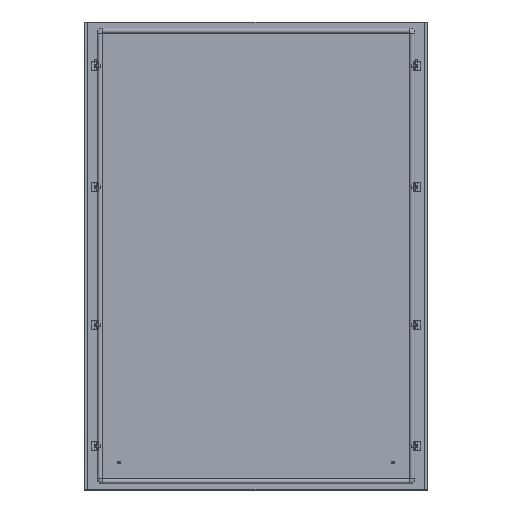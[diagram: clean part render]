
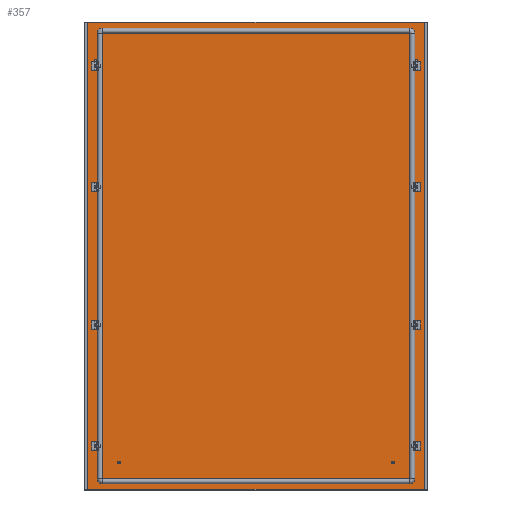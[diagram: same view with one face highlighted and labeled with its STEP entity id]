
A CAD part, top view. The second image highlights one B-rep face of the part: STEP entity #357.
In plain terms, the highlighted planar face has unit normal (0, 0, 1).
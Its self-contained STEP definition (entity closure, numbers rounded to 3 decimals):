
#357 = ADVANCED_FACE('',(#358,#456,#467,#478,#498,#518,#529,#540,#560),
  #580,.F.);
#358 = FACE_BOUND('',#359,.T.);
#359 = EDGE_LOOP('',(#360,#370,#378,#386,#394,#402,#410,#418,#426,#434,
    #442,#450));
#360 = ORIENTED_EDGE('',*,*,#361,.F.);
#361 = EDGE_CURVE('',#362,#364,#366,.T.);
#362 = VERTEX_POINT('',#363);
#363 = CARTESIAN_POINT('',(-495.5,677.5,0.));
#364 = VERTEX_POINT('',#365);
#365 = CARTESIAN_POINT('',(-495.3,677.5,0.));
#366 = LINE('',#367,#368);
#367 = CARTESIAN_POINT('',(0.,677.5,0.)
  );
#368 = VECTOR('',#369,1.);
#369 = DIRECTION('',(1.,0.,0.));
#370 = ORIENTED_EDGE('',*,*,#371,.T.);
#371 = EDGE_CURVE('',#362,#372,#374,.T.);
#372 = VERTEX_POINT('',#373);
#373 = CARTESIAN_POINT('',(-495.5,-677.5,0.));
#374 = LINE('',#375,#376);
#375 = CARTESIAN_POINT('',(-495.5,0.,
    0.));
#376 = VECTOR('',#377,1.);
#377 = DIRECTION('',(0.,-1.,0.));
#378 = ORIENTED_EDGE('',*,*,#379,.T.);
#379 = EDGE_CURVE('',#372,#380,#382,.T.);
#380 = VERTEX_POINT('',#381);
#381 = CARTESIAN_POINT('',(-495.3,-677.5,0.));
#382 = LINE('',#383,#384);
#383 = CARTESIAN_POINT('',(0.,-677.5,0.)
  );
#384 = VECTOR('',#385,1.);
#385 = DIRECTION('',(1.,-0.,-0.));
#386 = ORIENTED_EDGE('',*,*,#387,.F.);
#387 = EDGE_CURVE('',#388,#380,#390,.T.);
#388 = VERTEX_POINT('',#389);
#389 = CARTESIAN_POINT('',(-495.3,-676.,0.));
#390 = LINE('',#391,#392);
#391 = CARTESIAN_POINT('',(-495.3,0.,
    0.));
#392 = VECTOR('',#393,1.);
#393 = DIRECTION('',(0.,-1.,0.));
#394 = ORIENTED_EDGE('',*,*,#395,.T.);
#395 = EDGE_CURVE('',#388,#396,#398,.T.);
#396 = VERTEX_POINT('',#397);
#397 = CARTESIAN_POINT('',(495.3,-676.,0.));
#398 = LINE('',#399,#400);
#399 = CARTESIAN_POINT('',(0.,-676.,0.)
  );
#400 = VECTOR('',#401,1.);
#401 = DIRECTION('',(1.,-0.,-0.));
#402 = ORIENTED_EDGE('',*,*,#403,.T.);
#403 = EDGE_CURVE('',#396,#404,#406,.T.);
#404 = VERTEX_POINT('',#405);
#405 = CARTESIAN_POINT('',(495.3,-677.5,0.));
#406 = LINE('',#407,#408);
#407 = CARTESIAN_POINT('',(495.3,-676.,0.));
#408 = VECTOR('',#409,1.);
#409 = DIRECTION('',(0.,-1.,0.));
#410 = ORIENTED_EDGE('',*,*,#411,.F.);
#411 = EDGE_CURVE('',#412,#404,#414,.T.);
#412 = VERTEX_POINT('',#413);
#413 = CARTESIAN_POINT('',(495.5,-677.5,0.));
#414 = LINE('',#415,#416);
#415 = CARTESIAN_POINT('',(0.,-677.5,0.
    ));
#416 = VECTOR('',#417,1.);
#417 = DIRECTION('',(-1.,0.,0.));
#418 = ORIENTED_EDGE('',*,*,#419,.T.);
#419 = EDGE_CURVE('',#412,#420,#422,.T.);
#420 = VERTEX_POINT('',#421);
#421 = CARTESIAN_POINT('',(495.5,677.5,0.));
#422 = LINE('',#423,#424);
#423 = CARTESIAN_POINT('',(495.5,0.,
    0.));
#424 = VECTOR('',#425,1.);
#425 = DIRECTION('',(0.,1.,0.));
#426 = ORIENTED_EDGE('',*,*,#427,.T.);
#427 = EDGE_CURVE('',#420,#428,#430,.T.);
#428 = VERTEX_POINT('',#429);
#429 = CARTESIAN_POINT('',(495.3,677.5,0.));
#430 = LINE('',#431,#432);
#431 = CARTESIAN_POINT('',(0.,677.5,0.)
  );
#432 = VECTOR('',#433,1.);
#433 = DIRECTION('',(-1.,0.,0.));
#434 = ORIENTED_EDGE('',*,*,#435,.F.);
#435 = EDGE_CURVE('',#436,#428,#438,.T.);
#436 = VERTEX_POINT('',#437);
#437 = CARTESIAN_POINT('',(495.3,676.,0.));
#438 = LINE('',#439,#440);
#439 = CARTESIAN_POINT('',(495.3,0.,
    0.));
#440 = VECTOR('',#441,1.);
#441 = DIRECTION('',(0.,1.,0.));
#442 = ORIENTED_EDGE('',*,*,#443,.T.);
#443 = EDGE_CURVE('',#436,#444,#446,.T.);
#444 = VERTEX_POINT('',#445);
#445 = CARTESIAN_POINT('',(-495.3,676.,0.));
#446 = LINE('',#447,#448);
#447 = CARTESIAN_POINT('',(0.,676.,0.)
  );
#448 = VECTOR('',#449,1.);
#449 = DIRECTION('',(-1.,0.,0.));
#450 = ORIENTED_EDGE('',*,*,#451,.T.);
#451 = EDGE_CURVE('',#444,#364,#452,.T.);
#452 = LINE('',#453,#454);
#453 = CARTESIAN_POINT('',(-495.3,676.,0.));
#454 = VECTOR('',#455,1.);
#455 = DIRECTION('',(0.,1.,0.));
#456 = FACE_BOUND('',#457,.T.);
#457 = EDGE_LOOP('',(#458));
#458 = ORIENTED_EDGE('',*,*,#459,.T.);
#459 = EDGE_CURVE('',#460,#460,#462,.T.);
#460 = VERTEX_POINT('',#461);
#461 = CARTESIAN_POINT('',(-464.5,-195.25,
    0.));
#462 = CIRCLE('',#463,4.75);
#463 = AXIS2_PLACEMENT_3D('',#464,#465,#466);
#464 = CARTESIAN_POINT('',(-464.5,-200.,0.));
#465 = DIRECTION('',(0.,0.,-1.));
#466 = DIRECTION('',(0.,1.,0.));
#467 = FACE_BOUND('',#468,.T.);
#468 = EDGE_LOOP('',(#469));
#469 = ORIENTED_EDGE('',*,*,#470,.T.);
#470 = EDGE_CURVE('',#471,#471,#473,.T.);
#471 = VERTEX_POINT('',#472);
#472 = CARTESIAN_POINT('',(464.5,-204.75,
    0.));
#473 = CIRCLE('',#474,4.75);
#474 = AXIS2_PLACEMENT_3D('',#475,#476,#477);
#475 = CARTESIAN_POINT('',(464.5,-200.,0.));
#476 = DIRECTION('',(-0.,0.,-1.));
#477 = DIRECTION('',(0.,-1.,0.));
#478 = FACE_BOUND('',#479,.T.);
#479 = EDGE_LOOP('',(#480,#491));
#480 = ORIENTED_EDGE('',*,*,#481,.F.);
#481 = EDGE_CURVE('',#482,#484,#486,.T.);
#482 = VERTEX_POINT('',#483);
#483 = CARTESIAN_POINT('',(-464.5,554.75,
    0.));
#484 = VERTEX_POINT('',#485);
#485 = CARTESIAN_POINT('',(-464.5,545.25,
    0.));
#486 = CIRCLE('',#487,4.75);
#487 = AXIS2_PLACEMENT_3D('',#488,#489,#490);
#488 = CARTESIAN_POINT('',(-464.5,550.,0.));
#489 = DIRECTION('',(0.,0.,1.));
#490 = DIRECTION('',(0.,1.,0.));
#491 = ORIENTED_EDGE('',*,*,#492,.F.);
#492 = EDGE_CURVE('',#484,#482,#493,.T.);
#493 = CIRCLE('',#494,4.75);
#494 = AXIS2_PLACEMENT_3D('',#495,#496,#497);
#495 = CARTESIAN_POINT('',(-464.5,550.,0.));
#496 = DIRECTION('',(0.,0.,1.));
#497 = DIRECTION('',(0.,1.,0.));
#498 = FACE_BOUND('',#499,.T.);
#499 = EDGE_LOOP('',(#500,#511));
#500 = ORIENTED_EDGE('',*,*,#501,.F.);
#501 = EDGE_CURVE('',#502,#504,#506,.T.);
#502 = VERTEX_POINT('',#503);
#503 = CARTESIAN_POINT('',(464.5,545.25,
    0.));
#504 = VERTEX_POINT('',#505);
#505 = CARTESIAN_POINT('',(464.5,554.75,
    0.));
#506 = CIRCLE('',#507,4.75);
#507 = AXIS2_PLACEMENT_3D('',#508,#509,#510);
#508 = CARTESIAN_POINT('',(464.5,550.,0.));
#509 = DIRECTION('',(0.,0.,1.));
#510 = DIRECTION('',(0.,-1.,0.));
#511 = ORIENTED_EDGE('',*,*,#512,.F.);
#512 = EDGE_CURVE('',#504,#502,#513,.T.);
#513 = CIRCLE('',#514,4.75);
#514 = AXIS2_PLACEMENT_3D('',#515,#516,#517);
#515 = CARTESIAN_POINT('',(464.5,550.,0.));
#516 = DIRECTION('',(0.,0.,1.));
#517 = DIRECTION('',(0.,-1.,0.));
#518 = FACE_BOUND('',#519,.T.);
#519 = EDGE_LOOP('',(#520));
#520 = ORIENTED_EDGE('',*,*,#521,.T.);
#521 = EDGE_CURVE('',#522,#522,#524,.T.);
#522 = VERTEX_POINT('',#523);
#523 = CARTESIAN_POINT('',(-464.5,-545.25,
    0.));
#524 = CIRCLE('',#525,4.75);
#525 = AXIS2_PLACEMENT_3D('',#526,#527,#528);
#526 = CARTESIAN_POINT('',(-464.5,-550.,0.));
#527 = DIRECTION('',(0.,0.,-1.));
#528 = DIRECTION('',(0.,1.,0.));
#529 = FACE_BOUND('',#530,.T.);
#530 = EDGE_LOOP('',(#531));
#531 = ORIENTED_EDGE('',*,*,#532,.T.);
#532 = EDGE_CURVE('',#533,#533,#535,.T.);
#533 = VERTEX_POINT('',#534);
#534 = CARTESIAN_POINT('',(464.5,-554.75,
    0.));
#535 = CIRCLE('',#536,4.75);
#536 = AXIS2_PLACEMENT_3D('',#537,#538,#539);
#537 = CARTESIAN_POINT('',(464.5,-550.,0.));
#538 = DIRECTION('',(-0.,0.,-1.));
#539 = DIRECTION('',(0.,-1.,0.));
#540 = FACE_BOUND('',#541,.T.);
#541 = EDGE_LOOP('',(#542,#553));
#542 = ORIENTED_EDGE('',*,*,#543,.F.);
#543 = EDGE_CURVE('',#544,#546,#548,.T.);
#544 = VERTEX_POINT('',#545);
#545 = CARTESIAN_POINT('',(464.5,195.25,
    0.));
#546 = VERTEX_POINT('',#547);
#547 = CARTESIAN_POINT('',(464.5,204.75,
    0.));
#548 = CIRCLE('',#549,4.75);
#549 = AXIS2_PLACEMENT_3D('',#550,#551,#552);
#550 = CARTESIAN_POINT('',(464.5,200.,0.));
#551 = DIRECTION('',(0.,0.,1.));
#552 = DIRECTION('',(0.,-1.,0.));
#553 = ORIENTED_EDGE('',*,*,#554,.F.);
#554 = EDGE_CURVE('',#546,#544,#555,.T.);
#555 = CIRCLE('',#556,4.75);
#556 = AXIS2_PLACEMENT_3D('',#557,#558,#559);
#557 = CARTESIAN_POINT('',(464.5,200.,0.));
#558 = DIRECTION('',(0.,0.,1.));
#559 = DIRECTION('',(0.,-1.,0.));
#560 = FACE_BOUND('',#561,.T.);
#561 = EDGE_LOOP('',(#562,#573));
#562 = ORIENTED_EDGE('',*,*,#563,.F.);
#563 = EDGE_CURVE('',#564,#566,#568,.T.);
#564 = VERTEX_POINT('',#565);
#565 = CARTESIAN_POINT('',(-464.5,204.75,
    0.));
#566 = VERTEX_POINT('',#567);
#567 = CARTESIAN_POINT('',(-464.5,195.25,
    0.));
#568 = CIRCLE('',#569,4.75);
#569 = AXIS2_PLACEMENT_3D('',#570,#571,#572);
#570 = CARTESIAN_POINT('',(-464.5,200.,0.));
#571 = DIRECTION('',(0.,0.,1.));
#572 = DIRECTION('',(0.,1.,0.));
#573 = ORIENTED_EDGE('',*,*,#574,.F.);
#574 = EDGE_CURVE('',#566,#564,#575,.T.);
#575 = CIRCLE('',#576,4.75);
#576 = AXIS2_PLACEMENT_3D('',#577,#578,#579);
#577 = CARTESIAN_POINT('',(-464.5,200.,0.));
#578 = DIRECTION('',(0.,0.,1.));
#579 = DIRECTION('',(0.,1.,0.));
#580 = PLANE('',#581);
#581 = AXIS2_PLACEMENT_3D('',#582,#583,#584);
#582 = CARTESIAN_POINT('',(0.,0.,
    0.));
#583 = DIRECTION('',(0.,0.,-1.));
#584 = DIRECTION('',(-1.,0.,0.));
